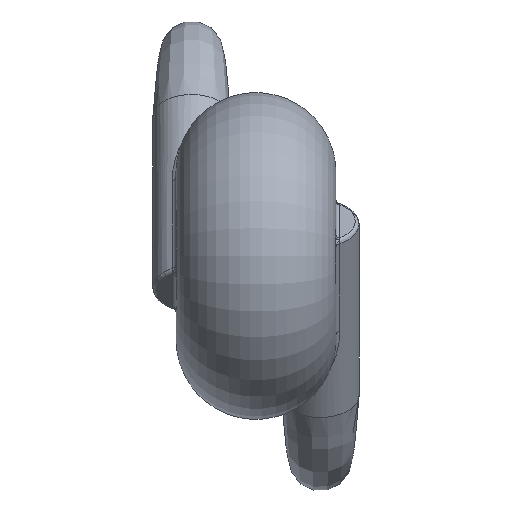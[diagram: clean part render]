
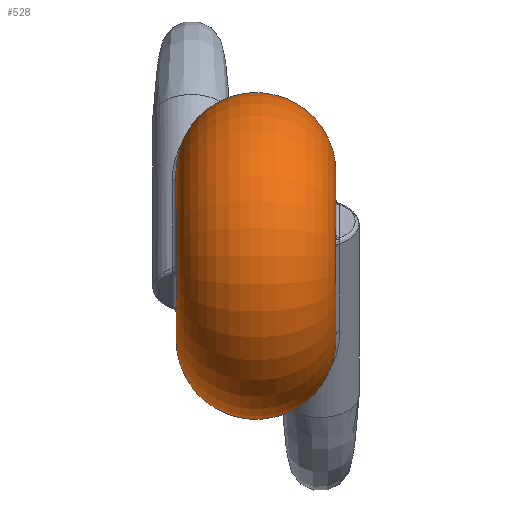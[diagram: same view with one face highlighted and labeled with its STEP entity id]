
A CAD part, left-side view. The second image highlights one B-rep face of the part: STEP entity #528.
In plain terms, the highlighted toroidal (fillet/blend) face has major radius 2.145 mm and minor radius 2.055 mm.
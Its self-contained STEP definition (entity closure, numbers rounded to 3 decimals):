
#20=TOROIDAL_SURFACE('',#582,2.145,2.055);
#77=B_SPLINE_CURVE_WITH_KNOTS('',3,(#1618,#1619,#1620,#1621,#1622,#1623,
#1624,#1625,#1626,#1627,#1628,#1629,#1630,#1631),.UNSPECIFIED.,.F.,.F.,
(4,1,1,1,1,1,1,1,1,1,1,4),(-0.79,-0.734,-0.677,
-0.564,-0.451,-0.395,-0.339,
-0.282,-0.226,-0.113,-0.056,
0.),.UNSPECIFIED.);
#78=B_SPLINE_CURVE_WITH_KNOTS('',3,(#1637,#1638,#1639,#1640,#1641,#1642,
#1643,#1644,#1645,#1646,#1647,#1648,#1649,#1650,#1651,#1652),
 .UNSPECIFIED.,.F.,.F.,(4,1,1,1,1,1,1,1,1,1,1,1,1,4),(-0.79,
-0.734,-0.677,-0.564,-0.508,
-0.451,-0.395,-0.339,-0.282,
-0.226,-0.169,-0.113,-0.056,
0.),.UNSPECIFIED.);
#95=FACE_BOUND('',#167,.T.);
#125=FACE_OUTER_BOUND('',#166,.T.);
#166=EDGE_LOOP('',(#417,#418));
#167=EDGE_LOOP('',(#419,#420));
#205=CIRCLE('',#583,2.145);
#206=CIRCLE('',#584,2.145);
#245=VERTEX_POINT('',#1543);
#246=VERTEX_POINT('',#1616);
#247=VERTEX_POINT('',#1635);
#248=VERTEX_POINT('',#1636);
#308=EDGE_CURVE('',#246,#245,#77,.T.);
#310=EDGE_CURVE('',#247,#248,#78,.T.);
#311=EDGE_CURVE('',#247,#248,#205,.T.);
#312=EDGE_CURVE('',#246,#245,#206,.T.);
#417=ORIENTED_EDGE('',*,*,#310,.T.);
#418=ORIENTED_EDGE('',*,*,#311,.F.);
#419=ORIENTED_EDGE('',*,*,#308,.T.);
#420=ORIENTED_EDGE('',*,*,#312,.F.);
#528=ADVANCED_FACE('',(#125,#95),#20,.T.);
#582=AXIS2_PLACEMENT_3D('',#1634,#693,#694);
#583=AXIS2_PLACEMENT_3D('',#1653,#695,#696);
#584=AXIS2_PLACEMENT_3D('',#1654,#697,#698);
#693=DIRECTION('center_axis',(0.,1.,0.));
#694=DIRECTION('ref_axis',(1.,0.,0.));
#695=DIRECTION('center_axis',(0.,-1.,0.));
#696=DIRECTION('ref_axis',(-1.,0.,0.));
#697=DIRECTION('center_axis',(0.,1.,0.));
#698=DIRECTION('ref_axis',(-1.,0.,0.));
#1543=CARTESIAN_POINT('',(0.683,3.3,2.033));
#1616=CARTESIAN_POINT('',(2.099,3.3,0.442));
#1618=CARTESIAN_POINT('Ctrl Pts',(2.099,3.3,0.442));
#1619=CARTESIAN_POINT('Ctrl Pts',(2.195,3.3,0.594));
#1620=CARTESIAN_POINT('Ctrl Pts',(2.399,3.276,0.884));
#1621=CARTESIAN_POINT('Ctrl Pts',(2.845,3.083,1.384));
#1622=CARTESIAN_POINT('Ctrl Pts',(3.337,2.552,1.901));
#1623=CARTESIAN_POINT('Ctrl Pts',(3.277,1.864,2.534));
#1624=CARTESIAN_POINT('Ctrl Pts',(2.826,1.622,3.075));
#1625=CARTESIAN_POINT('Ctrl Pts',(2.389,1.684,3.413));
#1626=CARTESIAN_POINT('Ctrl Pts',(1.955,1.975,3.586));
#1627=CARTESIAN_POINT('Ctrl Pts',(1.498,2.523,3.51));
#1628=CARTESIAN_POINT('Ctrl Pts',(1.238,3.014,3.049));
#1629=CARTESIAN_POINT('Ctrl Pts',(0.966,3.258,2.467));
#1630=CARTESIAN_POINT('Ctrl Pts',(0.785,3.3,2.172));
#1631=CARTESIAN_POINT('Ctrl Pts',(0.683,3.3,2.033));
#1634=CARTESIAN_POINT('Origin',(0.,1.245,0.));
#1635=CARTESIAN_POINT('',(2.099,-0.81,-0.442));
#1636=CARTESIAN_POINT('',(0.683,-0.81,-2.033));
#1637=CARTESIAN_POINT('Ctrl Pts',(2.099,-0.81,-0.442));
#1638=CARTESIAN_POINT('Ctrl Pts',(2.195,-0.81,-0.594));
#1639=CARTESIAN_POINT('Ctrl Pts',(2.399,-0.786,-0.884));
#1640=CARTESIAN_POINT('Ctrl Pts',(2.847,-0.594,-1.383));
#1641=CARTESIAN_POINT('Ctrl Pts',(3.235,-0.168,-1.8));
#1642=CARTESIAN_POINT('Ctrl Pts',(3.306,0.35,-2.278));
#1643=CARTESIAN_POINT('Ctrl Pts',(3.16,0.688,-2.672));
#1644=CARTESIAN_POINT('Ctrl Pts',(2.827,0.867,-3.075));
#1645=CARTESIAN_POINT('Ctrl Pts',(2.388,0.807,-3.414));
#1646=CARTESIAN_POINT('Ctrl Pts',(1.955,0.514,-3.586));
#1647=CARTESIAN_POINT('Ctrl Pts',(1.613,0.106,-3.53));
#1648=CARTESIAN_POINT('Ctrl Pts',(1.367,-0.282,-3.279));
#1649=CARTESIAN_POINT('Ctrl Pts',(1.171,-0.582,-2.904));
#1650=CARTESIAN_POINT('Ctrl Pts',(0.966,-0.769,
-2.466));
#1651=CARTESIAN_POINT('Ctrl Pts',(0.785,-0.81,-2.172));
#1652=CARTESIAN_POINT('Ctrl Pts',(0.683,-0.81,-2.033));
#1653=CARTESIAN_POINT('Origin',(0.,-0.81,0.));
#1654=CARTESIAN_POINT('Origin',(0.,3.3,0.));
